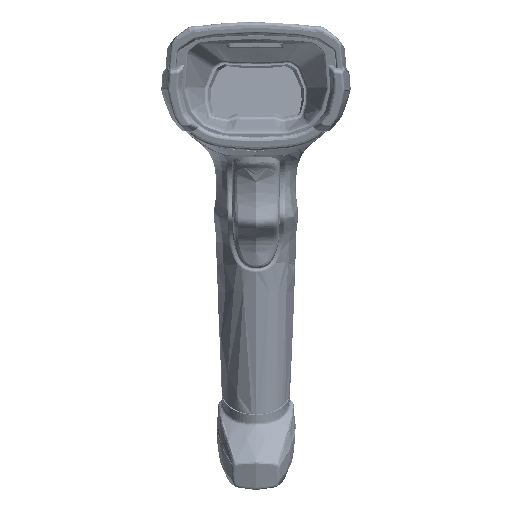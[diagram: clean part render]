
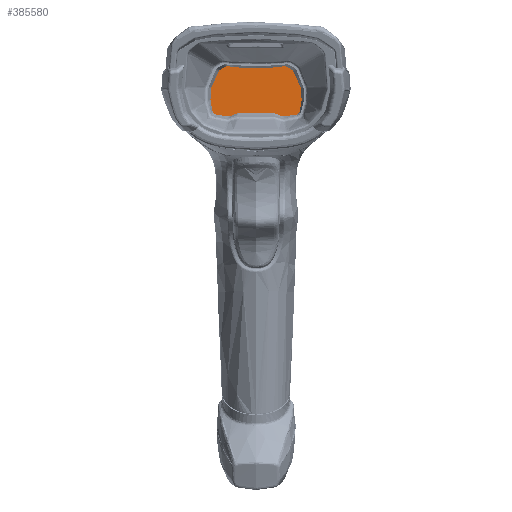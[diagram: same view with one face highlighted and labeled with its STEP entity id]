
A CAD part, top view. The second image highlights one B-rep face of the part: STEP entity #385580.
In plain terms, the highlighted planar face has unit normal (0, -0.018, 1).
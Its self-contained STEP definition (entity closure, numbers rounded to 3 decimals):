
#384593=CARTESIAN_POINT('',(14.836,10.388,
39.187));
#384594=DIRECTION('',(0.,0.017,-1.));
#384595=DIRECTION('',(0.,1.,0.017));
#384596=AXIS2_PLACEMENT_3D('',#384593,#384594,#384595);
#384598=DIRECTION('',(0.707,-0.707,-0.012));
#384599=VECTOR('',#384598,4.828);
#384600=CARTESIAN_POINT('',(15.543,11.095,
39.2));
#384601=LINE('',#384600,#384599);
#384602=CARTESIAN_POINT('',(18.25,6.974,39.128));
#384603=DIRECTION('',(0.,0.017,-1.));
#384604=DIRECTION('',(0.707,0.707,0.012));
#384605=AXIS2_PLACEMENT_3D('',#384602,#384603,#384604);
#384607=DIRECTION('',(0.,-1.,-0.017));
#384608=VECTOR('',#384607,16.936);
#384609=CARTESIAN_POINT('',(19.25,6.974,39.128));
#384610=LINE('',#384609,#384608);
#384611=CARTESIAN_POINT('',(16.25,-9.959,38.832));
#384612=DIRECTION('',(0.,0.017,-1.));
#384613=DIRECTION('',(1.,0.,0.));
#384614=AXIS2_PLACEMENT_3D('',#384611,#384612,#384613);
#384616=DIRECTION('',(-1.,0.,0.));
#384617=VECTOR('',#384616,32.5);
#384618=CARTESIAN_POINT('',(16.25,-12.959,
38.78));
#384619=LINE('',#384618,#384617);
#384620=CARTESIAN_POINT('',(-16.25,-9.959,38.832));
#384621=DIRECTION('',(0.,0.017,-1.));
#384622=DIRECTION('',(0.,-1.,
-0.017));
#384623=AXIS2_PLACEMENT_3D('',#384620,#384621,#384622);
#384625=DIRECTION('',(0.,1.,0.017));
#384626=VECTOR('',#384625,14.436);
#384627=CARTESIAN_POINT('',(-19.25,-9.959,38.832));
#384628=LINE('',#384627,#384626);
#384629=CARTESIAN_POINT('',(-18.25,4.474,39.084));
#384630=DIRECTION('',(0.,0.017,-1.));
#384631=DIRECTION('',(-1.,0.,0.));
#384632=AXIS2_PLACEMENT_3D('',#384629,#384630,#384631);
#384634=DIRECTION('',(0.707,0.707,0.012));
#384635=VECTOR('',#384634,8.364);
#384636=CARTESIAN_POINT('',(-18.957,5.181,
39.096));
#384637=LINE('',#384636,#384635);
#384638=CARTESIAN_POINT('',(-12.336,10.388,
39.187));
#384639=DIRECTION('',(0.,0.017,-1.));
#384640=DIRECTION('',(-0.707,0.707,0.012));
#384641=AXIS2_PLACEMENT_3D('',#384638,#384639,#384640);
#384643=DIRECTION('',(1.,0.,0.));
#384644=VECTOR('',#384643,27.172);
#384645=CARTESIAN_POINT('',(-12.336,11.388,
39.205));
#384646=LINE('',#384645,#384644);
#385171=CARTESIAN_POINT('',(15.543,11.095,
39.2));
#385172=VERTEX_POINT('',#385171);
#385173=CARTESIAN_POINT('',(14.836,11.388,
39.205));
#385174=VERTEX_POINT('',#385173);
#385175=CARTESIAN_POINT('',(18.957,7.681,
39.14));
#385176=VERTEX_POINT('',#385175);
#385177=CARTESIAN_POINT('',(19.25,6.974,39.128));
#385178=VERTEX_POINT('',#385177);
#385179=CARTESIAN_POINT('',(19.25,-9.959,38.832));
#385180=VERTEX_POINT('',#385179);
#385181=CARTESIAN_POINT('',(16.25,-12.959,
38.78));
#385182=VERTEX_POINT('',#385181);
#385183=CARTESIAN_POINT('',(-16.25,-12.959,
38.78));
#385184=VERTEX_POINT('',#385183);
#385185=CARTESIAN_POINT('',(-19.25,-9.959,38.832));
#385186=VERTEX_POINT('',#385185);
#385187=CARTESIAN_POINT('',(-19.25,4.474,39.084));
#385188=VERTEX_POINT('',#385187);
#385189=CARTESIAN_POINT('',(-18.957,5.181,
39.096));
#385190=VERTEX_POINT('',#385189);
#385191=CARTESIAN_POINT('',(-13.043,11.095,
39.2));
#385192=VERTEX_POINT('',#385191);
#385193=CARTESIAN_POINT('',(-12.336,11.388,
39.205));
#385194=VERTEX_POINT('',#385193);
#385561=CARTESIAN_POINT('',(0.,-0.681,38.994));
#385562=DIRECTION('',(0.,-0.017,1.));
#385563=DIRECTION('',(-1.,0.,0.));
#385564=AXIS2_PLACEMENT_3D('',#385561,#385562,#385563);
#385565=PLANE('',#385564);
#385566=ORIENTED_EDGE('',*,*,#385401,.T.);
#385567=ORIENTED_EDGE('',*,*,#385417,.T.);
#385568=ORIENTED_EDGE('',*,*,#385430,.T.);
#385569=ORIENTED_EDGE('',*,*,#385445,.T.);
#385570=ORIENTED_EDGE('',*,*,#385458,.T.);
#385571=ORIENTED_EDGE('',*,*,#385472,.T.);
#385572=ORIENTED_EDGE('',*,*,#385486,.T.);
#385573=ORIENTED_EDGE('',*,*,#385499,.T.);
#385574=ORIENTED_EDGE('',*,*,#385514,.T.);
#385575=ORIENTED_EDGE('',*,*,#385529,.T.);
#385576=ORIENTED_EDGE('',*,*,#385542,.T.);
#385577=ORIENTED_EDGE('',*,*,#385554,.T.);
#385578=EDGE_LOOP('',(#385566,#385567,#385568,#385569,#385570,#385571,#385572,
#385573,#385574,#385575,#385576,#385577));
#385579=FACE_OUTER_BOUND('',#385578,.F.);
#385580=ADVANCED_FACE('',(#385579),#385565,.T.);
#384597=CIRCLE('',#384596,1.);
#384606=CIRCLE('',#384605,1.);
#384615=CIRCLE('',#384614,3.);
#384624=CIRCLE('',#384623,3.);
#384633=CIRCLE('',#384632,1.);
#384642=CIRCLE('',#384641,1.);
#385401=EDGE_CURVE('',#385174,#385172,#384597,.T.);
#385417=EDGE_CURVE('',#385172,#385176,#384601,.T.);
#385430=EDGE_CURVE('',#385176,#385178,#384606,.T.);
#385445=EDGE_CURVE('',#385178,#385180,#384610,.T.);
#385458=EDGE_CURVE('',#385180,#385182,#384615,.T.);
#385472=EDGE_CURVE('',#385182,#385184,#384619,.T.);
#385486=EDGE_CURVE('',#385184,#385186,#384624,.T.);
#385499=EDGE_CURVE('',#385186,#385188,#384628,.T.);
#385514=EDGE_CURVE('',#385188,#385190,#384633,.T.);
#385529=EDGE_CURVE('',#385190,#385192,#384637,.T.);
#385542=EDGE_CURVE('',#385192,#385194,#384642,.T.);
#385554=EDGE_CURVE('',#385194,#385174,#384646,.T.);
